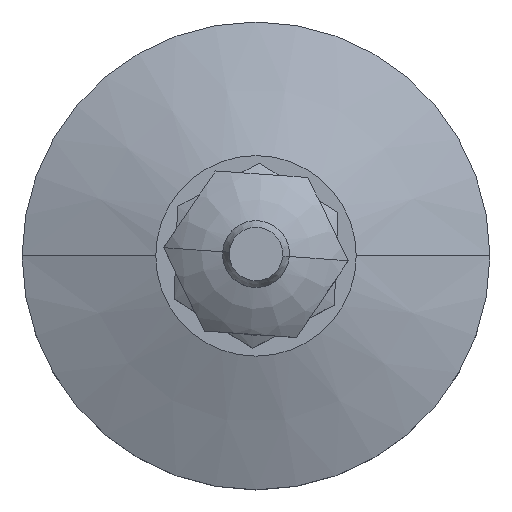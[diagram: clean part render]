
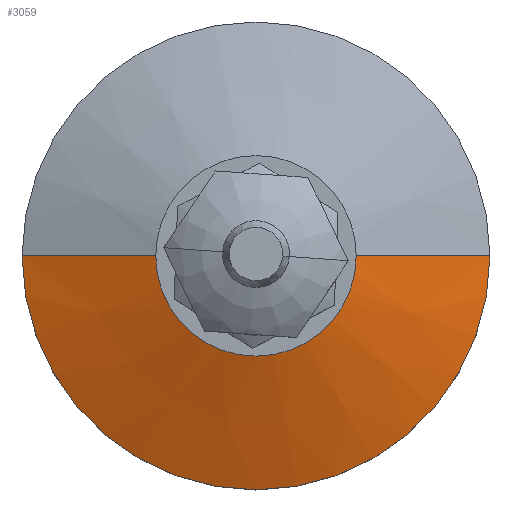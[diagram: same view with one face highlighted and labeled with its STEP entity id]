
A CAD part, top view. The second image highlights one B-rep face of the part: STEP entity #3059.
In plain terms, the highlighted conical face has half-angle 69.444 degrees and reference radius 35 mm.
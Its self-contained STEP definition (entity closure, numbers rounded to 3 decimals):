
#1040 = CARTESIAN_POINT ( 'NONE',  ( 0., 0., 7.5 ) ) ;
#1393 = LINE ( 'NONE', #12849, #15707 ) ;
#1546 = AXIS2_PLACEMENT_3D ( 'NONE', #1040, #10725, #2430 ) ;
#1921 = CARTESIAN_POINT ( 'NONE',  ( 15., 0., 15. ) ) ;
#1989 = DIRECTION ( 'NONE',  ( 0., 0., -1. ) ) ;
#2126 = VERTEX_POINT ( 'NONE', #13870 ) ;
#2154 = DIRECTION ( 'NONE',  ( -0.936, 0., -0.351 ) ) ;
#2430 = DIRECTION ( 'NONE',  ( 1., 0., 0. ) ) ;
#3059 = ADVANCED_FACE ( 'NONE', ( #17928 ), #6857, .T. ) ;
#3336 = VERTEX_POINT ( 'NONE', #15422 ) ;
#4013 = DIRECTION ( 'NONE',  ( 0., 0., -1. ) ) ;
#4397 = ORIENTED_EDGE ( 'NONE', *, *, #6901, .T. ) ;
#4740 = EDGE_CURVE ( 'NONE', #17523, #16161, #13498, .T. ) ;
#5399 = DIRECTION ( 'NONE',  ( -1., 0., 0. ) ) ;
#5482 = LINE ( 'NONE', #10438, #12853 ) ;
#6720 = CARTESIAN_POINT ( 'NONE',  ( 0., 0., 7.5 ) ) ;
#6857 = CONICAL_SURFACE ( 'NONE', #11978, 35., 1.212 ) ;
#6901 = EDGE_CURVE ( 'NONE', #16161, #2126, #5482, .T. ) ;
#7844 = ORIENTED_EDGE ( 'NONE', *, *, #4740, .T. ) ;
#9140 = EDGE_LOOP ( 'NONE', ( #15638, #7844, #4397, #11836 ) ) ;
#9620 = EDGE_CURVE ( 'NONE', #17523, #3336, #1393, .T. ) ;
#9812 = EDGE_CURVE ( 'NONE', #2126, #3336, #14843, .T. ) ;
#10291 = CARTESIAN_POINT ( 'NONE',  ( 0., 0., 15. ) ) ;
#10438 = CARTESIAN_POINT ( 'NONE',  ( -35., 0., 7.5 ) ) ;
#10725 = DIRECTION ( 'NONE',  ( 0., 0., 1. ) ) ;
#11677 = DIRECTION ( 'NONE',  ( -1., 0., 0. ) ) ;
#11836 = ORIENTED_EDGE ( 'NONE', *, *, #9812, .T. ) ;
#11978 = AXIS2_PLACEMENT_3D ( 'NONE', #6720, #4013, #5399 ) ;
#12072 = CARTESIAN_POINT ( 'NONE',  ( -15., 0., 15. ) ) ;
#12849 = CARTESIAN_POINT ( 'NONE',  ( 35., 0., 7.5 ) ) ;
#12853 = VECTOR ( 'NONE', #2154, 1000. ) ;
#13498 = CIRCLE ( 'NONE', #17842, 15. ) ;
#13870 = CARTESIAN_POINT ( 'NONE',  ( -35., 0., 7.5 ) ) ;
#14843 = CIRCLE ( 'NONE', #1546, 35. ) ;
#15422 = CARTESIAN_POINT ( 'NONE',  ( 35., 0., 7.5 ) ) ;
#15638 = ORIENTED_EDGE ( 'NONE', *, *, #9620, .F. ) ;
#15707 = VECTOR ( 'NONE', #17314, 1000. ) ;
#16161 = VERTEX_POINT ( 'NONE', #12072 ) ;
#17314 = DIRECTION ( 'NONE',  ( 0.936, 0., -0.351 ) ) ;
#17523 = VERTEX_POINT ( 'NONE', #1921 ) ;
#17842 = AXIS2_PLACEMENT_3D ( 'NONE', #10291, #1989, #11677 ) ;
#17928 = FACE_OUTER_BOUND ( 'NONE', #9140, .T. ) ;
